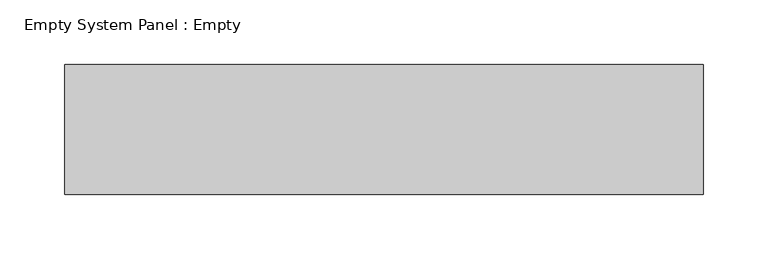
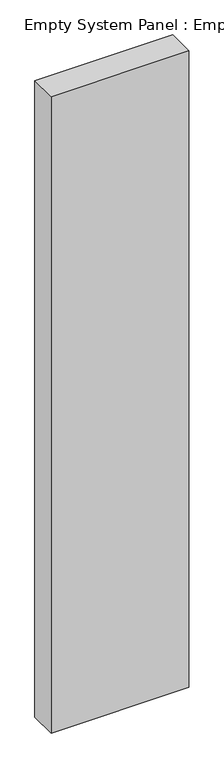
"""IFC4 building model written with IfcOpenShell, lengths in millimetres: plate geometry, Empty System Panel : Empty."""

from ifc_helpers import new_model, si_unit, origin, origin_with_axes, place, context, project, spatial, polyline, outline, extrude, source, transform, mapped, element, save


def empty_system_panel_empty_fb629106(model_context):
    return source(origin(), model_context, "Body", "SweptSolid", [
        extrude(outline(polyline([(245.75, 50.0), (-245.75, 50.0), (-245.75, 150.0), (245.75, 150.0), (245.75, 50.0)])), origin_with_axes(), (0.0, 0.0, 1.0), 2400.0),
    ])


if __name__ == "__main__":
    model = new_model("IFC4")
    model_context = context("Model", 3, world=origin())
    ifc_project = project(units=[si_unit("LENGTHUNIT", "METRE", prefix="MILLI")], contexts=[model_context])
    site = spatial("IfcSite", under=ifc_project)
    building = spatial("IfcBuilding", under=site)
    placement = place(None, origin())
    empty_system_panel_empty_shape = empty_system_panel_empty_fb629106(model_context)
    element("IfcPlate", 1, ObjectType="Empty System Panel : Empty", at=placement, inside=building, context=model_context, shape_type="MappedRepresentation", body=[
        mapped(empty_system_panel_empty_shape, transform((0.0, 0.0, 0.0), x_axis=(1.0, 0.0, 0.0), y_axis=(0.0, 1.0, 0.0), z_axis=(0.0, 0.0, 1.0))),
    ])
    save(model, "model.ifc")
